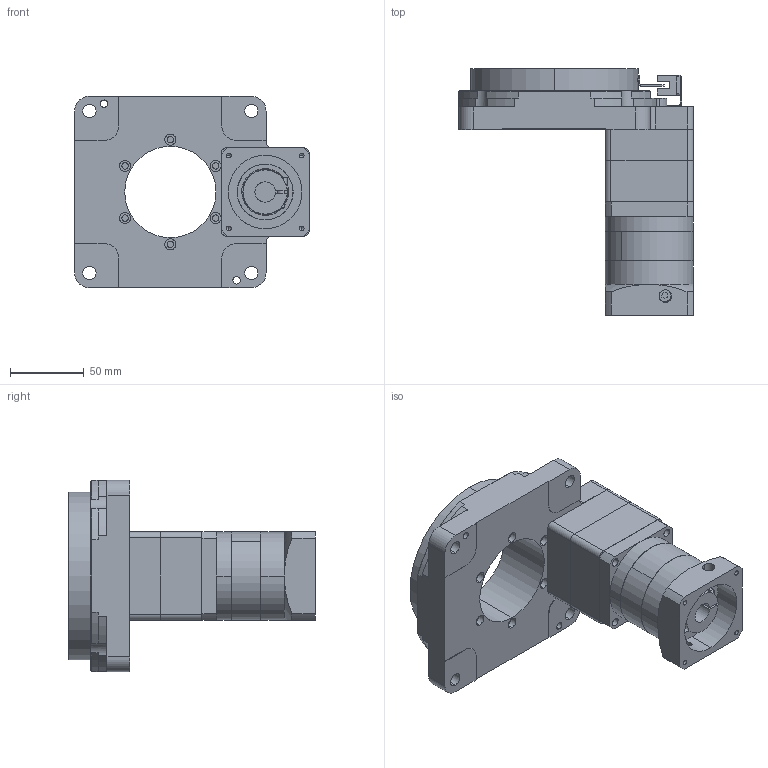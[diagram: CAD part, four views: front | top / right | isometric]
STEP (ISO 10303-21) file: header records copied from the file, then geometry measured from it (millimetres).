
FILE_DESCRIPTION(('Open CASCADE Model'),'2;1');
FILE_NAME('Open CASCADE Shape Model','2026-10-11T02:44:32',('Author'),( 'Open CASCADE'),'Open CASCADE STEP processor 7.8','Open CASCADE 7.8' ,'Unknown');
FILE_SCHEMA(('AUTOMOTIVE_DESIGN { 1 0 10303 214 1 1 1 1 }'));
Length unit declared in the file: millimetre
Products named in the file (4): NT130-F-10-PRF60-L1-M4(配伺服400W 输入14-50-70-M4); NT130-F-10-PRF60-L1-M4(配伺服400W 输入14-50-70-M4)-01; NT130-F-10-PRF60-L1-M4(配伺服400W 输入14-50-70-M4)-02; NT130-F-10-PRF60-L1-M4(配伺服400W 输入14-50-70-M4)-03
Assembly tree (3 placements, depth 2):
  NT130-F-10-PRF60-L1-M4(配伺服400W 输入14-50-70-M4)
    NT130-F-10-PRF60-L1-M4(配伺服400W 输入14-50-70-M4)-01
    NT130-F-10-PRF60-L1-M4(配伺服400W 输入14-50-70-M4)-02
    NT130-F-10-PRF60-L1-M4(配伺服400W 输入14-50-70-M4)-03
Bounding box: 159.4 x 167.5 x 130 mm (x, y, z)
Volume: 807113.3 mm3; surface area: 165557.4 mm2
Topology: 13 solids, 13 shells, 1575 faces, 4322 edges, 2819 vertices
Faces by surface type: plane 966, cylinder 378, bspline 161, cone 70
Entity records: 141400 total; most frequent: CARTESIAN_POINT 61120, DIRECTION 13403, ORIENTED_EDGE 8536, PCURVE 8536, DEFINITIONAL_REPRESENTATION 8536, LINE 8221, VECTOR 8221, EDGE_CURVE 4268
